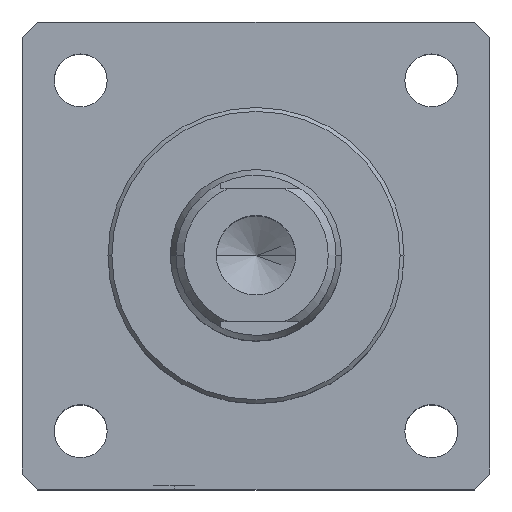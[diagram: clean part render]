
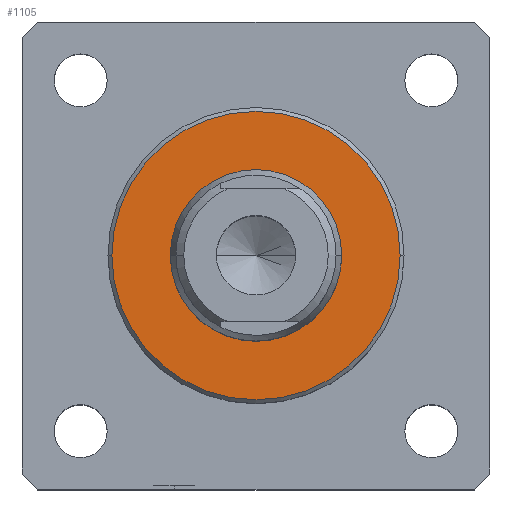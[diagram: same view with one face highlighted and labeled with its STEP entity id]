
A CAD part, top view. The second image highlights one B-rep face of the part: STEP entity #1105.
In plain terms, the highlighted planar face has unit normal (0, 0, 1).
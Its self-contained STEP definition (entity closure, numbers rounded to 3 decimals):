
#50 = CARTESIAN_POINT ( 'NONE',  ( -11., 0., 95. ) ) ;
#57 = ORIENTED_EDGE ( 'NONE', *, *, #295, .F. ) ;
#92 = VERTEX_POINT ( 'NONE', #50 ) ;
#123 = VERTEX_POINT ( 'NONE', #1300 ) ;
#124 = AXIS2_PLACEMENT_3D ( 'NONE', #337, #263, #529 ) ;
#263 = DIRECTION ( 'NONE',  ( 0., 0., 1. ) ) ;
#290 = ORIENTED_EDGE ( 'NONE', *, *, #1449, .T. ) ;
#295 = EDGE_CURVE ( 'NONE', #1854, #92, #1879, .T. ) ;
#337 = CARTESIAN_POINT ( 'NONE',  ( 0., 0., 95. ) ) ;
#343 = CARTESIAN_POINT ( 'NONE',  ( -18.5, 0., 95. ) ) ;
#468 = EDGE_LOOP ( 'NONE', ( #1323, #290 ) ) ;
#529 = DIRECTION ( 'NONE',  ( 1., 0., 0. ) ) ;
#600 = DIRECTION ( 'NONE',  ( 0., 0., 1. ) ) ;
#652 = CARTESIAN_POINT ( 'NONE',  ( 11., 0., 95. ) ) ;
#679 = EDGE_CURVE ( 'NONE', #92, #1854, #1550, .T. ) ;
#711 = FACE_OUTER_BOUND ( 'NONE', #468, .T. ) ;
#757 = AXIS2_PLACEMENT_3D ( 'NONE', #1078, #922, #1013 ) ;
#922 = DIRECTION ( 'NONE',  ( 0., 0., 1. ) ) ;
#1013 = DIRECTION ( 'NONE',  ( 1., 0., 0. ) ) ;
#1068 = PLANE ( 'NONE',  #757 ) ;
#1078 = CARTESIAN_POINT ( 'NONE',  ( 0., 0., 95. ) ) ;
#1105 = ADVANCED_FACE ( 'NONE', ( #711, #1752 ), #1068, .T. ) ;
#1180 = VERTEX_POINT ( 'NONE', #343 ) ;
#1223 = CARTESIAN_POINT ( 'NONE',  ( 0., 0., 95. ) ) ;
#1267 = DIRECTION ( 'NONE',  ( 1., 0., 0. ) ) ;
#1300 = CARTESIAN_POINT ( 'NONE',  ( 18.5, 0., 95. ) ) ;
#1323 = ORIENTED_EDGE ( 'NONE', *, *, #2061, .T. ) ;
#1449 = EDGE_CURVE ( 'NONE', #123, #1180, #1809, .T. ) ;
#1488 = AXIS2_PLACEMENT_3D ( 'NONE', #1604, #1615, #1621 ) ;
#1494 = ORIENTED_EDGE ( 'NONE', *, *, #679, .F. ) ;
#1550 = CIRCLE ( 'NONE', #1672, 11. ) ;
#1604 = CARTESIAN_POINT ( 'NONE',  ( 0., 0., 95. ) ) ;
#1615 = DIRECTION ( 'NONE',  ( 0., 0., 1. ) ) ;
#1621 = DIRECTION ( 'NONE',  ( 1., 0., 0. ) ) ;
#1672 = AXIS2_PLACEMENT_3D ( 'NONE', #1718, #1818, #1883 ) ;
#1718 = CARTESIAN_POINT ( 'NONE',  ( 0., 0., 95. ) ) ;
#1724 = AXIS2_PLACEMENT_3D ( 'NONE', #1223, #600, #1267 ) ;
#1752 = FACE_BOUND ( 'NONE', #1982, .T. ) ;
#1773 = CIRCLE ( 'NONE', #1488, 18.5 ) ;
#1809 = CIRCLE ( 'NONE', #1724, 18.5 ) ;
#1818 = DIRECTION ( 'NONE',  ( 0., 0., 1. ) ) ;
#1854 = VERTEX_POINT ( 'NONE', #652 ) ;
#1879 = CIRCLE ( 'NONE', #124, 11. ) ;
#1883 = DIRECTION ( 'NONE',  ( 1., 0., 0. ) ) ;
#1982 = EDGE_LOOP ( 'NONE', ( #1494, #57 ) ) ;
#2061 = EDGE_CURVE ( 'NONE', #1180, #123, #1773, .T. ) ;
